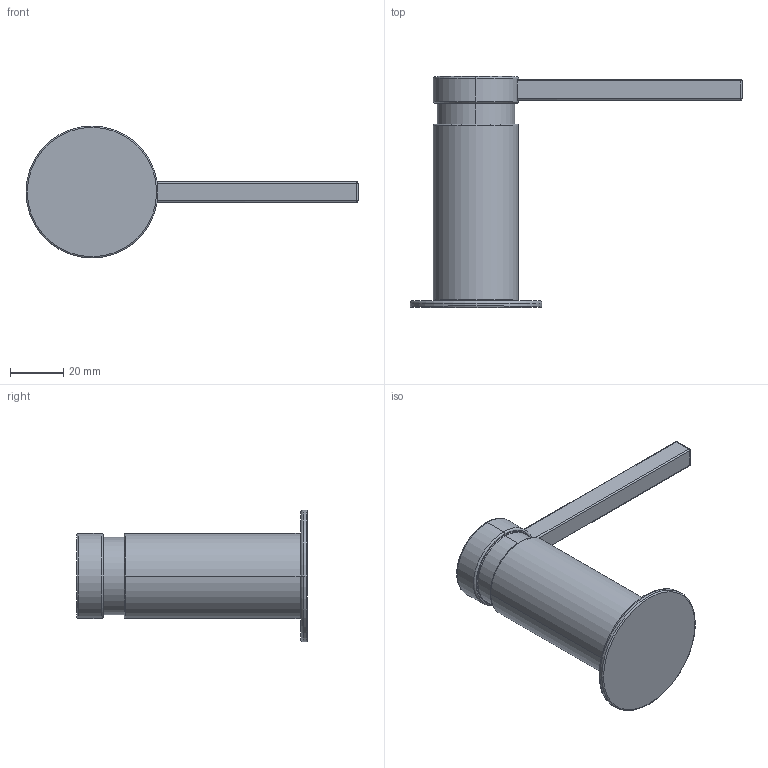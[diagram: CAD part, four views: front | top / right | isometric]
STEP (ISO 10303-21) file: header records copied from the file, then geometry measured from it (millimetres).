
FILE_DESCRIPTION((''),'2;1');
FILE_NAME('Z_536_159_XXX','2012-01-04T',('hpf'),(''),'PRO/ENGINEER BY PARAMETRIC TECHNOLOGY CORPORATION, 2011080','PRO/ENGINEER BY PARAMETRIC TECHNOLOGY CORPORATION, 2011080','');
FILE_SCHEMA(('AUTOMOTIVE_DESIGN_CC2 { 1 2 10303 214 -1 1 5 2 }'));
Length unit declared in the file: millimetre
Products named in the file (1): Z_536_159_XXX
Bounding box: 124.8 x 86.8 x 49.6 mm (x, y, z)
Volume: 76453.9 mm3; surface area: 15296.3 mm2
Topology: 1 solids, 1 shells, 44 faces, 88 edges, 50 vertices
Faces by surface type: cylinder 16, torus 14, plane 10, sphere 4
Entity records: 1532 total; most frequent: DIRECTION 230, CARTESIAN_POINT 218, ORIENTED_EDGE 176, AXIS2_PLACEMENT_3D 102, EDGE_CURVE 88, CIRCLE 58, VERTEX_POINT 50, EDGE_LOOP 48
